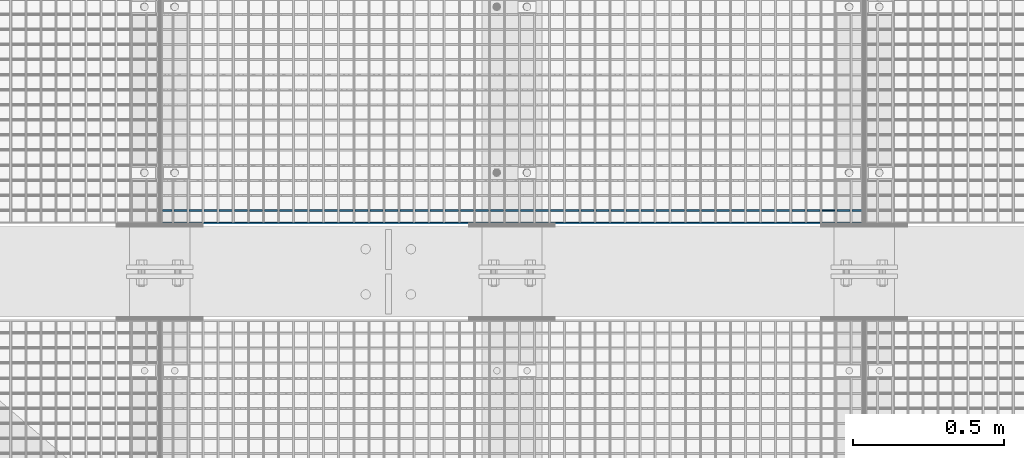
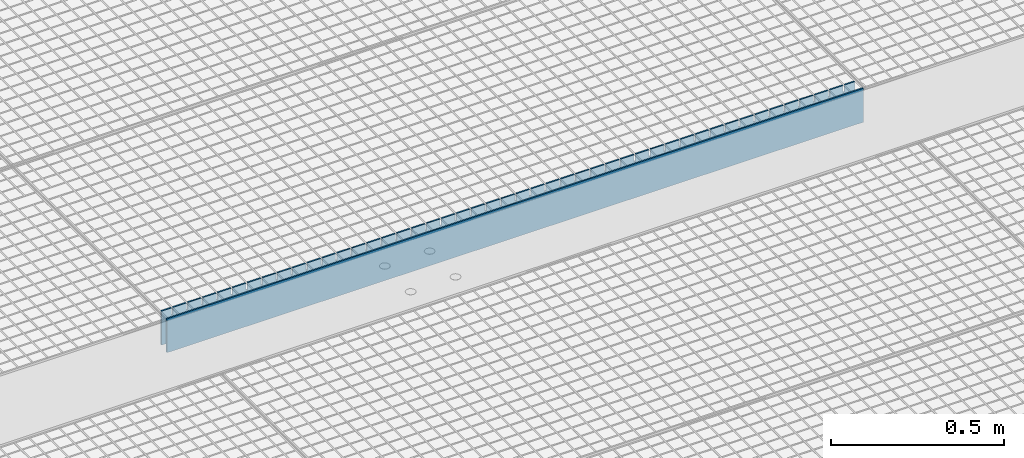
# One storey, part 362 of 1530: 2 beams.
"""IFC2X3 building model written with IfcOpenShell, lengths in millimetres."""

from ifc_helpers import new_model, si_unit, frame, origin_with_axes, place, context, subcontext, project, spatial, faceted_brep, material, type_object, element, save


model = new_model("IFC2X3")

# Units and contexts
model_context = context("Model", 3, precision=1e-05, world=origin_with_axes())
body_context = subcontext(model_context, "Body", "Model", "MODEL_VIEW")
ifc_project = project(units=[si_unit("LENGTHUNIT", "METRE", prefix="MILLI"), si_unit("AREAUNIT", "SQUARE_METRE"), si_unit("VOLUMEUNIT", "CUBIC_METRE"), si_unit("MASSUNIT", "GRAM", prefix="KILO"), si_unit("TIMEUNIT", "SECOND"), si_unit("PLANEANGLEUNIT", "RADIAN"), si_unit("SOLIDANGLEUNIT", "STERADIAN"), si_unit("THERMODYNAMICTEMPERATUREUNIT", "DEGREE_CELSIUS"), si_unit("LUMINOUSINTENSITYUNIT", "LUMEN")], contexts=[model_context])

# Site, building, storey
site_placement = place(None, origin_with_axes())
site = spatial("IfcSite", under=ifc_project, at=site_placement, Name="Brattvåg", CompositionType="ELEMENT")
building_placement = place(site_placement, origin_with_axes())
building = spatial("IfcBuilding", under=site, at=building_placement, Name="Undefined", CompositionType="ELEMENT")
storey_placement = place(building_placement, origin_with_axes())
storey = spatial("IfcBuildingStorey", under=building, at=storey_placement, Name="Undefined", CompositionType="ELEMENT", Elevation=0.0)

# Beams
ifc_material = material(Name="STEEL/S355J2")
beam_type = type_object("IfcBeamType", Name="120*5", PredefinedType="NOTDEFINED")
beam_1_placement = place(storey_placement, frame((7570.01317977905, 3202.99487304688, -59.9998626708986), z_axis=(0.0, 0.0, 1.0), x_axis=(-1.0, 1.99999855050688e-09, 0.0)))
element("IfcBeam", 1, at=beam_1_placement, inside=storey, type_object=beam_type, material=ifc_material, Name="GRATING", context=body_context, shape_type="Brep", body=[
    faceted_brep([(83.5790367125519, -2.50000000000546, 60.0000722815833), (83.5790367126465, -2.50000000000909, 35.0001373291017), (83.5790367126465, 2.50022888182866, 35.0001373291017), (83.5790367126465, 2.5, 60.0), (88.5790367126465, -2.50000000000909, 35.0001373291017), (88.5790367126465, 2.50022888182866, 35.0001373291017), (88.5790367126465, -2.50000000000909, 60.0001373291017), (88.5790367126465, 2.5, 60.0), (38.6284370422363, -2.50000000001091, 60.0001373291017), (38.6284370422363, 2.5, 60.0), (38.6284370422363, 2.49999999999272, 35.0001373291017), (38.6284370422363, -2.50000000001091, 35.0001373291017), (33.6284370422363, 2.49999999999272, 35.0001373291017), (33.6284370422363, -2.50000000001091, 35.0001373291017), (33.6284370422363, -2.5, 60.0), (33.6284370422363, 2.5, 60.0), (0.0, 2.5, 60.0), (0.0, -2.5, 60.0), (0.0, -2.5, -60.0), (0.0, 2.5, -60.0), (2319.99865722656, 2.5, -60.0), (2319.99865722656, -2.5, -60.0), (2319.99865722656, -2.5, 60.0), (2319.99865722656, 2.5, 60.0), (2286.37871932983, 2.5, 60.0), (2286.37871932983, -2.50000000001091, 60.0001373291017), (2286.37871932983, 2.49999999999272, 35.0001373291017), (2286.37871932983, -2.50000000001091, 35.0001373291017), (2281.37871932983, 2.49999999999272, 35.0001373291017), (2281.37871932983, -2.50000000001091, 35.0001373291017), (2281.37871932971, -2.50000000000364, 60.0000634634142), (2281.37871932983, 2.5, 60.0), (2236.42859649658, 2.5, 60.0), (2236.42859649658, -2.50000000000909, 60.0001373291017), (2236.42859649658, 2.50022888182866, 35.0001373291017), (2236.42859649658, -2.50000000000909, 35.0001373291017), (2231.42859649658, 2.50022888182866, 35.0001373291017), (2231.42859649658, -2.50000000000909, 35.0001373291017), (2231.42859649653, -2.50000000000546, 60.0000910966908), (2231.42859649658, 2.5, 60.0), (2186.47847366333, 2.5, 60.0), (2186.47847366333, -2.50000000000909, 60.0001373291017), (2186.47847366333, 2.50022888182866, 35.0001373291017), (2186.47847366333, -2.50000000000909, 35.0001373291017), (2181.47847366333, 2.50022888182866, 35.0001373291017), (2181.47847366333, -2.50000000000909, 35.0001373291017), (2181.47847366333, -2.5, 60.0), (2181.47847366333, 2.5, 60.0), (2136.52882766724, 2.5, 60.0), (2136.52882766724, -2.50000000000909, 60.0001373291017), (2136.52882766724, 2.50022888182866, 35.0001373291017), (2136.52882766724, -2.50000000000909, 35.0001373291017), (2131.52882766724, 2.50022888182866, 35.0001373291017), (2131.52882766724, -2.50000000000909, 35.0001373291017), (2131.52882766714, -2.50000000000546, 60.0000722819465), (2131.52882766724, 2.5, 60.0), (2086.57870483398, 2.5, 60.0), (2086.57870483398, -2.50000000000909, 60.0001373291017), (2086.57870483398, 2.50022888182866, 35.0001373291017), (2086.57870483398, -2.50000000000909, 35.0001373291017), (2081.57870483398, 2.50022888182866, 35.0001373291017), (2081.57870483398, -2.50000000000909, 35.0001373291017), (2081.57870483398, -2.5, 60.0), (2081.57870483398, 2.5, 60.0), (2036.62858200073, 2.5, 60.0), (2036.62858200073, -2.50000000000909, 60.0001373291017), (2036.62858200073, 2.50022888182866, 35.0001373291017), (2036.62858200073, -2.50000000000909, 35.0001373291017), (2031.62858200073, 2.50022888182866, 35.0001373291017), (2031.62858200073, -2.50000000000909, 35.0001373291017), (2031.62858200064, -2.50000000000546, 60.0000722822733), (2031.62858200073, 2.5, 60.0), (1986.67845916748, 2.5, 60.0), (1986.67845916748, -2.50000000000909, 60.0001373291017), (1986.67845916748, 2.50022888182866, 35.0001373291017), (1986.67845916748, -2.50000000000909, 35.0001373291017), (1981.67845916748, 2.50022888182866, 35.0001373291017), (1981.67845916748, -2.50000000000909, 35.0001373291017), (1981.67845916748, -2.5, 60.0), (1981.67845916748, 2.5, 60.0), (1936.72881317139, 2.5, 60.0), (1936.72881317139, -2.50000000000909, 60.0001373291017), (1936.72881317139, 2.50022888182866, 35.0001373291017), (1936.72881317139, -2.50000000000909, 35.0001373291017), (1931.72881317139, 2.50022888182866, 35.0001373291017), (1931.72881317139, -2.50000000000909, 35.0001373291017), (1931.72881317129, -2.50000000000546, 60.0000722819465), (1931.72881317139, 2.5, 60.0), (1886.77869033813, 2.5, 60.0), (1886.77869033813, -2.50000000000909, 60.0001373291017), (1886.77869033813, 2.50022888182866, 35.0001373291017), (1886.77869033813, -2.50000000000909, 35.0001373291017), (1881.77869033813, 2.50022888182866, 35.0001373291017), (1881.77869033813, -2.50000000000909, 35.0001373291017), (1881.77869033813, -2.5, 60.0), (1881.77869033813, 2.5, 60.0), (1836.82856750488, 2.5, 60.0), (1836.82856750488, -2.50000000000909, 60.0001373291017), (1836.82856750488, 2.50022888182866, 35.0001373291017), (1836.82856750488, -2.50000000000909, 35.0001373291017), (1831.82856750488, 2.50022888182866, 35.0001373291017), (1831.82856750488, -2.50000000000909, 35.0001373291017), (1831.82856750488, -2.5, 60.0), (1831.82856750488, 2.5, 60.0), (1786.87892150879, 2.5, 60.0), (1786.87892150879, -2.50000000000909, 60.0001373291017), (1786.87892150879, 2.50022888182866, 35.0001373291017), (1786.87892150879, -2.50000000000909, 35.0001373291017), (1781.87892150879, 2.50022888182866, 35.0001373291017), (1781.87892150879, -2.50000000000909, 35.0001373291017), (1781.87892150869, -2.50000000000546, 60.0000722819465), (1781.87892150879, 2.5, 60.0), (1736.92879867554, 2.5, 60.0), (1736.92879867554, -2.50000000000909, 60.0001373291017), (1736.92879867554, 2.50022888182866, 35.0001373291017), (1736.92879867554, -2.50000000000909, 35.0001373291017), (1731.92879867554, 2.50022888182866, 35.0001373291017), (1731.92879867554, -2.50000000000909, 35.0001373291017), (1731.92879867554, -2.5, 60.0), (1731.92879867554, 2.5, 60.0), (1686.97867584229, 2.5, 60.0), (1686.97867584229, -2.50000000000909, 60.0001373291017), (1686.97867584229, 2.50022888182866, 35.0001373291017), (1686.97867584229, -2.50000000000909, 35.0001373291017), (1681.97867584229, 2.50022888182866, 35.0001373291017), (1681.97867584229, -2.50000000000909, 35.0001373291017), (1681.97867584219, -2.50000000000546, 60.0000722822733), (1681.97867584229, 2.5, 60.0), (1637.02855300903, 2.5, 60.0), (1637.02855300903, -2.50000000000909, 60.0001373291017), (1637.02855300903, 2.50022888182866, 35.0001373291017), (1637.02855300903, -2.50000000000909, 35.0001373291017), (1632.02855300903, 2.50022888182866, 35.0001373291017), (1632.02855300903, -2.50000000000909, 35.0001373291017), (1632.02855300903, -2.5, 60.0), (1632.02855300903, 2.5, 60.0), (1587.07890701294, 2.5, 60.0), (1587.07890701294, -2.50000000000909, 60.0001373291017), (1587.07890701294, 2.50022888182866, 35.0001373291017), (1587.07890701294, -2.50000000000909, 35.0001373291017), (1582.07890701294, 2.50022888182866, 35.0001373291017), (1582.07890701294, -2.50000000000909, 35.0001373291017), (1582.07890701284, -2.50000000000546, 60.0000722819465), (1582.07890701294, 2.5, 60.0), (1537.12878417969, 2.5, 60.0), (1537.12878417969, -2.50000000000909, 60.0001373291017), (1537.12878417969, 2.50022888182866, 35.0001373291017), (1537.12878417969, -2.50000000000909, 35.0001373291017), (1532.12878417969, 2.50022888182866, 35.0001373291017), (1532.12878417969, -2.50000000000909, 35.0001373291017), (1532.12878417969, -2.5, 60.0), (1532.12878417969, 2.5, 60.0), (1487.17866134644, 2.5, 60.0), (1487.17866134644, -2.50000000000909, 60.0001373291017), (1487.17866134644, 2.50022888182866, 35.0001373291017), (1487.17866134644, -2.50000000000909, 35.0001373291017), (1482.17866134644, 2.50022888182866, 35.0001373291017), (1482.17866134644, -2.50000000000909, 35.0001373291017), (1482.17866134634, -2.50000000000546, 60.0000722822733), (1482.17866134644, 2.5, 60.0), (1437.22853851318, 2.5, 60.0), (1437.22853851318, -2.50000000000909, 60.0001373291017), (1437.22853851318, 2.50022888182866, 35.0001373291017), (1437.22853851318, -2.50000000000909, 35.0001373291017), (1432.22853851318, 2.50022888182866, 35.0001373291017), (1432.22853851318, -2.50000000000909, 35.0001373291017), (1432.22853851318, -2.5, 60.0), (1432.22853851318, 2.5, 60.0), (1387.27889251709, 2.5, 60.0), (1387.27889251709, -2.50000000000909, 60.0001373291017), (1387.27889251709, 2.50022888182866, 35.0001373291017), (1387.27889251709, -2.50000000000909, 35.0001373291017), (1382.27889251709, 2.50022888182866, 35.0001373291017), (1382.27889251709, -2.50000000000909, 35.0001373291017), (1382.278892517, -2.50000000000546, 60.0000722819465), (1382.27889251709, 2.5, 60.0), (1337.32876968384, 2.5, 60.0), (1337.32876968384, -2.50000000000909, 60.0001373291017), (1337.32876968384, 2.50022888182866, 35.0001373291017), (1337.32876968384, -2.50000000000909, 35.0001373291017), (1332.32876968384, 2.50022888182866, 35.0001373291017), (1332.32876968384, -2.50000000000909, 35.0001373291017), (1332.32876968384, -2.5, 60.0), (1332.32876968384, 2.5, 60.0), (1287.37864685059, 2.5, 60.0), (1287.37864685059, -2.50000000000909, 60.0001373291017), (1287.37864685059, 2.50022888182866, 35.0001373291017), (1287.37864685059, -2.50000000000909, 35.0001373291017), (1282.37864685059, 2.50022888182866, 35.0001373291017), (1282.37864685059, -2.50000000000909, 35.0001373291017), (1282.37864685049, -2.50000000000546, 60.0000722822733), (1282.37864685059, 2.5, 60.0), (1237.42852401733, 2.5, 60.0), (1237.42852401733, -2.50000000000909, 60.0001373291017), (1237.42852401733, 2.50022888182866, 35.0001373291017), (1237.42852401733, -2.50000000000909, 35.0001373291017), (1232.42852401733, 2.50022888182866, 35.0001373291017), (1232.42852401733, -2.50000000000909, 35.0001373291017), (1232.42852401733, -2.5, 60.0), (1232.42852401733, 2.5, 60.0), (1187.47887802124, 2.5, 60.0), (1187.47887802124, -2.50000000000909, 60.0001373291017), (1187.47887802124, 2.50022888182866, 35.0001373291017), (1187.47887802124, -2.50000000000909, 35.0001373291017), (1182.47887802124, 2.50022888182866, 35.0001373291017), (1182.47887802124, -2.50000000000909, 35.0001373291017), (1182.47887802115, -2.50000000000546, 60.0000722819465), (1182.47887802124, 2.5, 60.0), (1137.52875518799, 2.5, 60.0), (1137.52875518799, -2.50000000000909, 60.0001373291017), (1137.52875518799, 2.50022888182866, 35.0001373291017), (1137.52875518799, -2.50000000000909, 35.0001373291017), (1132.52875518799, 2.50022888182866, 35.0001373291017), (1132.52875518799, -2.50000000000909, 35.0001373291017), (1132.52875518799, -2.5, 60.0), (1132.52875518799, 2.5, 60.0), (1087.57863235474, 2.5, 60.0), (1087.57863235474, -2.50000000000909, 60.0001373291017), (1087.57863235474, 2.50022888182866, 35.0001373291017), (1087.57863235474, -2.50000000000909, 35.0001373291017), (1082.57863235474, 2.50022888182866, 35.0001373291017), (1082.57863235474, -2.50000000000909, 35.0001373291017), (1082.57863235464, -2.50000000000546, 60.0000722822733), (1082.57863235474, 2.5, 60.0), (1037.62850952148, 2.5, 60.0), (1037.62850952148, -2.50000000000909, 60.0001373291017), (1037.62850952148, 2.50022888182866, 35.0001373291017), (1037.62850952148, -2.50000000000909, 35.0001373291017), (1032.62850952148, 2.50022888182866, 35.0001373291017), (1032.62850952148, -2.50000000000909, 35.0001373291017), (1032.62850952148, -2.5, 60.0), (1032.62850952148, 2.5, 60.0), (987.678863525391, 2.5, 60.0), (987.678863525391, -2.50000000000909, 60.0001373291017), (987.678863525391, 2.50022888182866, 35.0001373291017), (987.678863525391, -2.50000000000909, 35.0001373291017), (982.678863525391, 2.50022888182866, 35.0001373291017), (982.678863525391, -2.50000000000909, 35.0001373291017), (982.678863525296, -2.50000000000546, 60.0000722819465), (982.678863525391, 2.5, 60.0), (937.728740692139, 2.5, 60.0), (937.728740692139, -2.50000000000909, 60.0001373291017), (937.728740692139, 2.50022888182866, 35.0001373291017), (937.728740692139, -2.50000000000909, 35.0001373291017), (932.728740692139, 2.50022888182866, 35.0001373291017), (932.728740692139, -2.50000000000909, 35.0001373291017), (932.728740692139, -2.5, 60.0), (932.728740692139, 2.5, 60.0), (887.778617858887, 2.5, 60.0), (887.778617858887, -2.50000000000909, 60.0001373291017), (887.778617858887, 2.50022888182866, 35.0001373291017), (887.778617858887, -2.50000000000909, 35.0001373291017), (882.778617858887, 2.50022888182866, 35.0001373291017), (882.778617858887, -2.50000000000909, 35.0001373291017), (882.778617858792, -2.50000000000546, 60.0000722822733), (882.778617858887, 2.5, 60.0), (837.828495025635, 2.5, 60.0), (837.828495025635, -2.50000000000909, 60.0001373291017), (837.828495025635, 2.50022888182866, 35.0001373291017), (837.828495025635, -2.50000000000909, 35.0001373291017), (832.828495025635, 2.50022888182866, 35.0001373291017), (832.828495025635, -2.50000000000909, 35.0001373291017), (832.828495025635, -2.5, 60.0), (832.828495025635, 2.5, 60.0), (787.878849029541, 2.5, 60.0), (787.878849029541, -2.50000000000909, 60.0001373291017), (787.878849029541, 2.50022888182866, 35.0001373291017), (787.878849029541, -2.50000000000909, 35.0001373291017), (782.878849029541, 2.50022888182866, 35.0001373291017), (782.878849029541, -2.50000000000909, 35.0001373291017), (782.878849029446, -2.50000000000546, 60.0000722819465), (782.878849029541, 2.5, 60.0), (737.928726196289, 2.5, 60.0), (737.928726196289, -2.50000000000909, 60.0001373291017), (737.928726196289, 2.50022888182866, 35.0001373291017), (737.928726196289, -2.50000000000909, 35.0001373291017), (732.928726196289, 2.50022888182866, 35.0001373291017), (732.928726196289, -2.50000000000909, 35.0001373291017), (732.928726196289, -2.5, 60.0), (732.928726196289, 2.5, 60.0), (687.978603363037, 2.5, 60.0), (687.978603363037, -2.50000000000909, 60.0001373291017), (687.978603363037, 2.50022888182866, 35.0001373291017), (687.978603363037, -2.50000000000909, 35.0001373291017), (682.978603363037, 2.50022888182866, 35.0001373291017), (682.978603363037, -2.50000000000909, 35.0001373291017), (682.978603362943, -2.50000000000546, 60.0000722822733), (682.978603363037, 2.5, 60.0), (638.028480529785, 2.5, 60.0), (638.028480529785, -2.50000000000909, 60.0001373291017), (638.028480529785, 2.50022888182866, 35.0001373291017), (638.028480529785, -2.50000000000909, 35.0001373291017), (633.028480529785, 2.50022888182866, 35.0001373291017), (633.028480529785, -2.50000000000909, 35.0001373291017), (633.028480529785, -2.5, 60.0), (633.028480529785, 2.5, 60.0), (588.078834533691, 2.5, 60.0), (588.078834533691, -2.50000000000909, 60.0001373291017), (588.078834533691, 2.50022888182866, 35.0001373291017), (588.078834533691, -2.50000000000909, 35.0001373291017), (583.078834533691, 2.50022888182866, 35.0001373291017), (583.078834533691, -2.50000000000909, 35.0001373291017), (583.078834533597, -2.50000000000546, 60.0000722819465), (583.078834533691, 2.5, 60.0), (538.128711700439, 2.5, 60.0), (538.128711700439, -2.50000000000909, 60.0001373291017), (538.128711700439, 2.50022888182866, 35.0001373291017), (538.128711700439, -2.50000000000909, 35.0001373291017), (533.128711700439, 2.50022888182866, 35.0001373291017), (533.128711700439, -2.50000000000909, 35.0001373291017), (533.128711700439, -2.5, 60.0), (533.128711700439, 2.5, 60.0), (488.178588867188, 2.5, 60.0), (488.178588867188, -2.50000000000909, 60.0001373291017), (488.178588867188, 2.50022888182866, 35.0001373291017), (488.178588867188, -2.50000000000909, 35.0001373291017), (483.178588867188, 2.50022888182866, 35.0001373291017), (483.178588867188, -2.50000000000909, 35.0001373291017), (483.178588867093, -2.50000000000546, 60.0000722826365), (483.178588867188, 2.5, 60.0), (438.228942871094, 2.5, 60.0), (438.228942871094, -2.50000000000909, 60.0001373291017), (438.228942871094, 2.50022888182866, 35.0001373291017), (438.228942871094, -2.50000000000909, 35.0001373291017), (433.228942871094, 2.50022888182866, 35.0001373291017), (433.228942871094, -2.50000000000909, 35.0001373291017), (433.228942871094, -2.5, 60.0), (433.228942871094, 2.5, 60.0), (388.278820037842, 2.5, 60.0), (388.278820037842, -2.50000000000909, 60.0001373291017), (388.278820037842, 2.50022888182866, 35.0001373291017), (388.278820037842, -2.50000000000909, 35.0001373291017), (383.278820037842, 2.50022888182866, 35.0001373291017), (383.278820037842, -2.50000000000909, 35.0001373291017), (383.278820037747, -2.50000000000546, 60.0000722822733), (383.278820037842, 2.5, 60.0), (338.32869720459, 2.5, 60.0), (338.32869720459, -2.50000000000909, 60.0001373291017), (338.32869720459, 2.50022888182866, 35.0001373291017), (338.32869720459, -2.50000000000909, 35.0001373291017), (333.32869720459, 2.50022888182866, 35.0001373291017), (333.32869720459, -2.50000000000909, 35.0001373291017), (333.32869720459, -2.5, 60.0), (333.32869720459, 2.5, 60.0), (288.378574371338, 2.5, 60.0), (288.378574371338, -2.50000000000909, 60.0001373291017), (288.378574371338, 2.50022888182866, 35.0001373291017), (288.378574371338, -2.50000000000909, 35.0001373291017), (283.378574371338, 2.50022888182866, 35.0001373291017), (283.378574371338, -2.50000000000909, 35.0001373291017), (283.378574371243, -2.50000000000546, 60.0000722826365), (283.378574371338, 2.5, 60.0), (238.428928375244, 2.5, 60.0), (238.428928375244, -2.50000000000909, 60.0001373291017), (238.428928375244, 2.50022888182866, 35.0001373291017), (238.428928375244, -2.50000000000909, 35.0001373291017), (233.428928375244, 2.50022888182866, 35.0001373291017), (233.428928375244, -2.50000000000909, 35.0001373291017), (233.428928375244, -2.5, 60.0), (233.428928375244, 2.5, 60.0), (188.478328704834, 2.5, 60.0), (188.478328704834, -2.50000000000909, 60.0001373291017), (188.478328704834, 2.50022888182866, 35.0001373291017), (188.478328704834, -2.50000000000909, 35.0001373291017), (183.478328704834, 2.50022888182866, 35.0001373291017), (183.478328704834, -2.50000000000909, 35.0001373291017), (183.478328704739, -2.50000000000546, 60.0000722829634), (183.478328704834, 2.5, 60.0), (138.52868270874, 2.5, 60.0), (138.52868270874, -2.50000000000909, 60.0001373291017), (138.52868270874, 2.50022888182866, 35.0001373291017), (138.52868270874, -2.50000000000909, 35.0001373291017), (133.52868270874, 2.50022888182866, 35.0001373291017), (133.52868270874, -2.50000000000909, 35.0001373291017), (133.52868270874, -2.5, 60.0), (133.52868270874, 2.5, 60.0)], [[[0, 1, 2, 3]], [[4, 5, 2, 1]], [[6, 7, 5, 4]], [[8, 9, 10, 11]], [[11, 10, 12, 13]], [[14, 13, 12, 15]], [[16, 17, 14, 15]], [[18, 17, 16, 19]], [[18, 19, 20, 21]], [[22, 21, 20, 23]], [[22, 23, 24, 25]], [[25, 24, 26, 27]], [[27, 26, 28, 29]], [[30, 29, 28, 31]], [[32, 33, 30, 31]], [[33, 32, 34, 35]], [[35, 34, 36, 37]], [[38, 37, 36, 39]], [[40, 41, 38, 39]], [[41, 40, 42, 43]], [[43, 42, 44, 45]], [[46, 45, 44, 47]], [[46, 47, 48, 49]], [[49, 48, 50, 51]], [[51, 50, 52, 53]], [[54, 53, 52, 55]], [[56, 57, 54, 55]], [[57, 56, 58, 59]], [[59, 58, 60, 61]], [[62, 61, 60, 63]], [[62, 63, 64, 65]], [[65, 64, 66, 67]], [[67, 66, 68, 69]], [[70, 69, 68, 71]], [[72, 73, 70, 71]], [[73, 72, 74, 75]], [[75, 74, 76, 77]], [[78, 77, 76, 79]], [[78, 79, 80, 81]], [[81, 80, 82, 83]], [[83, 82, 84, 85]], [[86, 85, 84, 87]], [[88, 89, 86, 87]], [[89, 88, 90, 91]], [[91, 90, 92, 93]], [[94, 93, 92, 95]], [[94, 95, 96, 97]], [[97, 96, 98, 99]], [[99, 98, 100, 101]], [[102, 101, 100, 103]], [[102, 103, 104, 105]], [[105, 104, 106, 107]], [[107, 106, 108, 109]], [[110, 109, 108, 111]], [[112, 113, 110, 111]], [[113, 112, 114, 115]], [[115, 114, 116, 117]], [[118, 117, 116, 119]], [[118, 119, 120, 121]], [[121, 120, 122, 123]], [[123, 122, 124, 125]], [[126, 125, 124, 127]], [[128, 129, 126, 127]], [[129, 128, 130, 131]], [[131, 130, 132, 133]], [[134, 133, 132, 135]], [[134, 135, 136, 137]], [[137, 136, 138, 139]], [[139, 138, 140, 141]], [[142, 141, 140, 143]], [[144, 145, 142, 143]], [[145, 144, 146, 147]], [[147, 146, 148, 149]], [[150, 149, 148, 151]], [[150, 151, 152, 153]], [[153, 152, 154, 155]], [[155, 154, 156, 157]], [[158, 157, 156, 159]], [[160, 161, 158, 159]], [[161, 160, 162, 163]], [[163, 162, 164, 165]], [[166, 165, 164, 167]], [[166, 167, 168, 169]], [[169, 168, 170, 171]], [[171, 170, 172, 173]], [[174, 173, 172, 175]], [[176, 177, 174, 175]], [[177, 176, 178, 179]], [[179, 178, 180, 181]], [[182, 181, 180, 183]], [[182, 183, 184, 185]], [[185, 184, 186, 187]], [[187, 186, 188, 189]], [[190, 189, 188, 191]], [[192, 193, 190, 191]], [[193, 192, 194, 195]], [[195, 194, 196, 197]], [[198, 197, 196, 199]], [[198, 199, 200, 201]], [[201, 200, 202, 203]], [[203, 202, 204, 205]], [[206, 205, 204, 207]], [[208, 209, 206, 207]], [[209, 208, 210, 211]], [[211, 210, 212, 213]], [[214, 213, 212, 215]], [[214, 215, 216, 217]], [[217, 216, 218, 219]], [[219, 218, 220, 221]], [[222, 221, 220, 223]], [[224, 225, 222, 223]], [[225, 224, 226, 227]], [[227, 226, 228, 229]], [[230, 229, 228, 231]], [[230, 231, 232, 233]], [[233, 232, 234, 235]], [[235, 234, 236, 237]], [[238, 237, 236, 239]], [[240, 241, 238, 239]], [[241, 240, 242, 243]], [[243, 242, 244, 245]], [[246, 245, 244, 247]], [[246, 247, 248, 249]], [[249, 248, 250, 251]], [[251, 250, 252, 253]], [[254, 253, 252, 255]], [[256, 257, 254, 255]], [[257, 256, 258, 259]], [[259, 258, 260, 261]], [[262, 261, 260, 263]], [[262, 263, 264, 265]], [[265, 264, 266, 267]], [[267, 266, 268, 269]], [[270, 269, 268, 271]], [[272, 273, 270, 271]], [[273, 272, 274, 275]], [[275, 274, 276, 277]], [[278, 277, 276, 279]], [[278, 279, 280, 281]], [[281, 280, 282, 283]], [[283, 282, 284, 285]], [[286, 285, 284, 287]], [[288, 289, 286, 287]], [[289, 288, 290, 291]], [[291, 290, 292, 293]], [[294, 293, 292, 295]], [[294, 295, 296, 297]], [[297, 296, 298, 299]], [[299, 298, 300, 301]], [[302, 301, 300, 303]], [[304, 305, 302, 303]], [[305, 304, 306, 307]], [[307, 306, 308, 309]], [[310, 309, 308, 311]], [[310, 311, 312, 313]], [[313, 312, 314, 315]], [[315, 314, 316, 317]], [[318, 317, 316, 319]], [[320, 321, 318, 319]], [[321, 320, 322, 323]], [[323, 322, 324, 325]], [[326, 325, 324, 327]], [[326, 327, 328, 329]], [[329, 328, 330, 331]], [[331, 330, 332, 333]], [[334, 333, 332, 335]], [[336, 337, 334, 335]], [[337, 336, 338, 339]], [[339, 338, 340, 341]], [[342, 341, 340, 343]], [[342, 343, 344, 345]], [[345, 344, 346, 347]], [[347, 346, 348, 349]], [[350, 349, 348, 351]], [[352, 353, 350, 351]], [[353, 352, 354, 355]], [[355, 354, 356, 357]], [[358, 357, 356, 359]], [[358, 359, 360, 361]], [[361, 360, 362, 363]], [[363, 362, 364, 365]], [[366, 365, 364, 367]], [[368, 369, 366, 367]], [[369, 368, 370, 371]], [[371, 370, 372, 373]], [[374, 373, 372, 375]], [[1, 0, 8, 11, 13, 14, 17, 18, 21, 22, 25, 27, 29, 30, 33, 35, 37, 38, 41, 43, 45, 46, 49, 51, 53, 54, 57, 59, 61, 62, 65, 67, 69, 70, 73, 75, 77, 78, 81, 83, 85, 86, 89, 91, 93, 94, 97, 99, 101, 102, 105, 107, 109, 110, 113, 115, 117, 118, 121, 123, 125, 126, 129, 131, 133, 134, 137, 139, 141, 142, 145, 147, 149, 150, 153, 155, 157, 158, 161, 163, 165, 166, 169, 171, 173, 174, 177, 179, 181, 182, 185, 187, 189, 190, 193, 195, 197, 198, 201, 203, 205, 206, 209, 211, 213, 214, 217, 219, 221, 222, 225, 227, 229, 230, 233, 235, 237, 238, 241, 243, 245, 246, 249, 251, 253, 254, 257, 259, 261, 262, 265, 267, 269, 270, 273, 275, 277, 278, 281, 283, 285, 286, 289, 291, 293, 294, 297, 299, 301, 302, 305, 307, 309, 310, 313, 315, 317, 318, 321, 323, 325, 326, 329, 331, 333, 334, 337, 339, 341, 342, 345, 347, 349, 350, 353, 355, 357, 358, 361, 363, 365, 366, 369, 371, 373, 374, 6, 4]], [[9, 8, 0, 3]], [[375, 372, 370, 368, 367, 364, 362, 360, 359, 356, 354, 352, 351, 348, 346, 344, 343, 340, 338, 336, 335, 332, 330, 328, 327, 324, 322, 320, 319, 316, 314, 312, 311, 308, 306, 304, 303, 300, 298, 296, 295, 292, 290, 288, 287, 284, 282, 280, 279, 276, 274, 272, 271, 268, 266, 264, 263, 260, 258, 256, 255, 252, 250, 248, 247, 244, 242, 240, 239, 236, 234, 232, 231, 228, 226, 224, 223, 220, 218, 216, 215, 212, 210, 208, 207, 204, 202, 200, 199, 196, 194, 192, 191, 188, 186, 184, 183, 180, 178, 176, 175, 172, 170, 168, 167, 164, 162, 160, 159, 156, 154, 152, 151, 148, 146, 144, 143, 140, 138, 136, 135, 132, 130, 128, 127, 124, 122, 120, 119, 116, 114, 112, 111, 108, 106, 104, 103, 100, 98, 96, 95, 92, 90, 88, 87, 84, 82, 80, 79, 76, 74, 72, 71, 68, 66, 64, 63, 60, 58, 56, 55, 52, 50, 48, 47, 44, 42, 40, 39, 36, 34, 32, 31, 28, 26, 24, 23, 20, 19, 16, 15, 12, 10, 9, 3, 2, 5, 7]], [[374, 375, 7, 6]]]),
])
beam_2_placement = place(storey_placement, frame((5245.01067138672, 3161.49868774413, -59.9998626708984), z_axis=(0.0, 0.0, 1.0), x_axis=(1.0, 0.0, 0.0)))
element("IfcBeam", 2, at=beam_2_placement, inside=storey, type_object=beam_type, material=ifc_material, Name="GRATING", context=body_context, shape_type="Brep", body=[
    faceted_brep([(0.0, 2.5, -60.0), (0.0, 2.5, 60.0), (2329.99832153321, 2.5, 60.0), (2329.99832153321, 2.5, -60.0), (0.0, -2.5, 60.0), (2329.99832153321, -2.5, 60.0), (0.0, -2.5, -60.0), (2329.99832153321, -2.5, -60.0)], [[[0, 1, 2, 3]], [[1, 4, 5, 2]], [[4, 6, 7, 5]], [[6, 0, 3, 7]], [[5, 7, 3, 2]], [[6, 4, 1, 0]]]),
])

save(model, "model.ifc")
